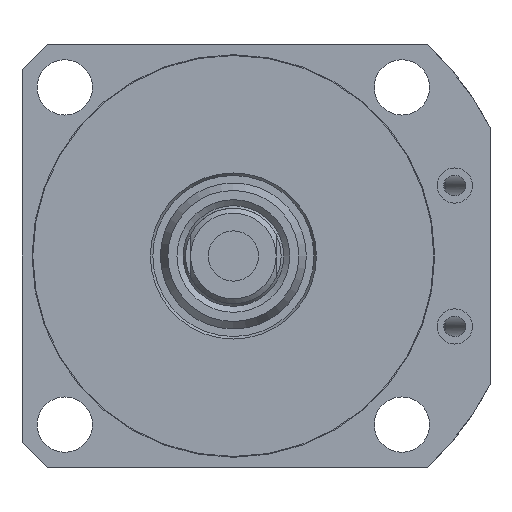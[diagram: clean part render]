
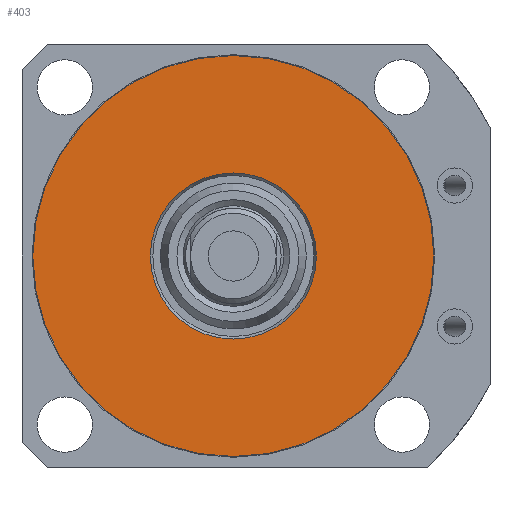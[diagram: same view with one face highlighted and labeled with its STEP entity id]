
A CAD part, front view. The second image highlights one B-rep face of the part: STEP entity #403.
In plain terms, the highlighted planar face has unit normal (0, -1, 0).
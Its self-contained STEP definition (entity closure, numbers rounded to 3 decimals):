
#403 = ADVANCED_FACE( '', ( #817, #818 ), #819, .T. );
#817 = FACE_OUTER_BOUND( '', #1542, .T. );
#818 = FACE_BOUND( '', #1543, .T. );
#819 = PLANE( '', #1544 );
#1542 = EDGE_LOOP( '', ( #2652 ) );
#1543 = EDGE_LOOP( '', ( #2653 ) );
#1544 = AXIS2_PLACEMENT_3D( '', #2654, #2655, #2656 );
#2652 = ORIENTED_EDGE( '', *, *, #4558, .T. );
#2653 = ORIENTED_EDGE( '', *, *, #4559, .F. );
#2654 = CARTESIAN_POINT( '', ( 0., -70., 0. ) );
#2655 = DIRECTION( '', ( 0., -1., 0. ) );
#2656 = DIRECTION( '', ( 1., 0., 0. ) );
#4558 = EDGE_CURVE( '', #5417, #5417, #5418, .T. );
#4559 = EDGE_CURVE( '', #5419, #5419, #5420, .T. );
#5417 = VERTEX_POINT( '', #6975 );
#5418 = CIRCLE( '', #6976, 39.85 );
#5419 = VERTEX_POINT( '', #6977 );
#5420 = CIRCLE( '', #6978, 16.5 );
#6975 = CARTESIAN_POINT( '', ( -39.85, -70., 0. ) );
#6976 = AXIS2_PLACEMENT_3D( '', #8407, #8408, #8409 );
#6977 = CARTESIAN_POINT( '', ( 0., -70., 16.5 ) );
#6978 = AXIS2_PLACEMENT_3D( '', #8410, #8411, #8412 );
#8407 = CARTESIAN_POINT( '', ( 0., -70., 0. ) );
#8408 = DIRECTION( '', ( 0., -1., 0. ) );
#8409 = DIRECTION( '', ( -1., 0., 0. ) );
#8410 = CARTESIAN_POINT( '', ( 0., -70., 0. ) );
#8411 = DIRECTION( '', ( 0., -1., 0. ) );
#8412 = DIRECTION( '', ( 0., 0., 1. ) );
